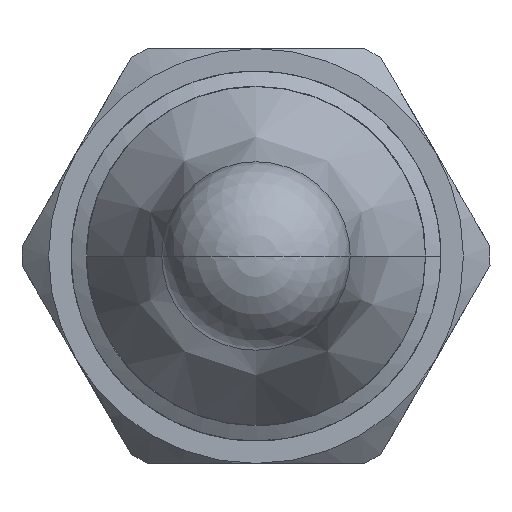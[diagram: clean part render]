
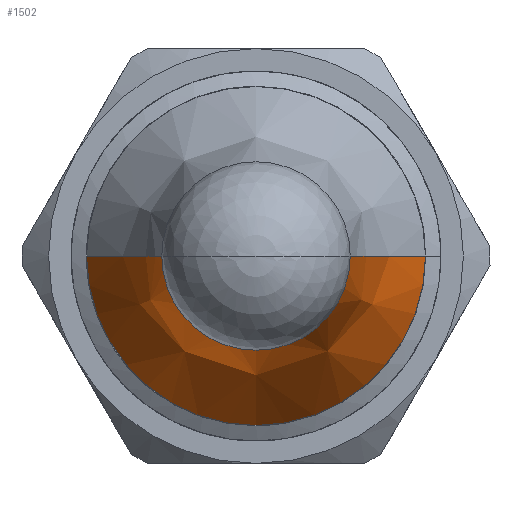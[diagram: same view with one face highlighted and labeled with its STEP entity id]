
A CAD part, front view. The second image highlights one B-rep face of the part: STEP entity #1502.
In plain terms, the highlighted free-form (B-spline) face has degree [2, 3] with [3, 4] control points.
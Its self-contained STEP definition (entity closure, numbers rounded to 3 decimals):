
#30 = VERTEX_POINT ( 'NONE', #5097 ) ;
#75 = DIRECTION ( 'NONE',  ( 0., 1., 0. ) ) ;
#100 = ORIENTED_EDGE ( 'NONE', *, *, #3394, .T. ) ;
#182 = CARTESIAN_POINT ( 'NONE',  ( -5.664, -143.124, 0. ) ) ;
#526 = CARTESIAN_POINT ( 'NONE',  ( 8.99, -138.8, 0. ) ) ;
#590 = ORIENTED_EDGE ( 'NONE', *, *, #857, .T. ) ;
#603 = CARTESIAN_POINT ( 'NONE',  ( -5., -148., 0. ) ) ;
#606 = AXIS2_PLACEMENT_3D ( 'NONE', #881, #75, #4155 ) ;
#857 = EDGE_CURVE ( 'NONE', #1431, #4128, #2897, .T. ) ;
#869 = AXIS2_PLACEMENT_3D ( 'NONE', #1557, #2839, #4502 ) ;
#881 = CARTESIAN_POINT ( 'NONE',  ( 0., -148., 0. ) ) ;
#1019 = CARTESIAN_POINT ( 'NONE',  ( 5.664, -143.124, 0. ) ) ;
#1160 = B_SPLINE_CURVE_WITH_KNOTS ( 'NONE', 2,
 ( #1556, #2412, #5270 ),
 .UNSPECIFIED., .F., .F.,
 ( 3, 3 ),
 ( 0., 0.667 ),
 .UNSPECIFIED. ) ;
#1431 = VERTEX_POINT ( 'NONE', #2627 ) ;
#1502 = ADVANCED_FACE ( 'NONE', ( #4204 ), #2243, .T. ) ;
#1556 = CARTESIAN_POINT ( 'NONE',  ( -8.99, -138.8, 0. ) ) ;
#1557 = CARTESIAN_POINT ( 'NONE',  ( 0., -138.8, 0. ) ) ;
#1661 = EDGE_CURVE ( 'NONE', #30, #3627, #2481, .T. ) ;
#2172 = CARTESIAN_POINT ( 'NONE',  ( -8.99, -138.8, -17.98 ) ) ;
#2198 = CARTESIAN_POINT ( 'NONE',  ( 5.664, -143.124, -11.328 ) ) ;
#2243 =( BOUNDED_SURFACE ( )  B_SPLINE_SURFACE ( 2, 3, ( 
 ( #526, #3433, #2172, #3405 ),
 ( #5037, #2198, #3832, #182 ),
 ( #5063, #3022, #4666, #603 ) ),
 .UNSPECIFIED., .F., .F., .T. ) 
 B_SPLINE_SURFACE_WITH_KNOTS ( ( 3, 3 ),
 ( 4, 4 ),
 ( 0., 0.667 ),
 ( 0., 1. ),
 .UNSPECIFIED. ) 
 GEOMETRIC_REPRESENTATION_ITEM ( )  RATIONAL_B_SPLINE_SURFACE ( (
 ( 1., 0.333, 0.333, 1.),
 ( 1., 0.333, 0.333, 1.),
 ( 1., 0.333, 0.333, 1.) ) ) 
 REPRESENTATION_ITEM ( '' )  SURFACE ( )  );
#2411 = CARTESIAN_POINT ( 'NONE',  ( -5., -148., 0. ) ) ;
#2412 = CARTESIAN_POINT ( 'NONE',  ( -5.664, -143.124, 0. ) ) ;
#2481 = CIRCLE ( 'NONE', #869, 8.99 ) ;
#2627 = CARTESIAN_POINT ( 'NONE',  ( 5., -148., 0. ) ) ;
#2716 = ORIENTED_EDGE ( 'NONE', *, *, #4407, .F. ) ;
#2839 = DIRECTION ( 'NONE',  ( 0., 1., 0. ) ) ;
#2897 = CIRCLE ( 'NONE', #606, 5. ) ;
#3022 = CARTESIAN_POINT ( 'NONE',  ( 5., -148., -10. ) ) ;
#3257 = CARTESIAN_POINT ( 'NONE',  ( -8.99, -138.8, 0. ) ) ;
#3366 = CARTESIAN_POINT ( 'NONE',  ( 8.99, -138.8, 0. ) ) ;
#3394 = EDGE_CURVE ( 'NONE', #30, #1431, #4886, .T. ) ;
#3405 = CARTESIAN_POINT ( 'NONE',  ( -8.99, -138.8, 0. ) ) ;
#3433 = CARTESIAN_POINT ( 'NONE',  ( 8.99, -138.8, -17.98 ) ) ;
#3627 = VERTEX_POINT ( 'NONE', #3257 ) ;
#3832 = CARTESIAN_POINT ( 'NONE',  ( -5.664, -143.124, -11.328 ) ) ;
#4128 = VERTEX_POINT ( 'NONE', #2411 ) ;
#4155 = DIRECTION ( 'NONE',  ( -1., 0., 0. ) ) ;
#4204 = FACE_OUTER_BOUND ( 'NONE', #4591, .T. ) ;
#4407 = EDGE_CURVE ( 'NONE', #3627, #4128, #1160, .T. ) ;
#4502 = DIRECTION ( 'NONE',  ( -1., 0., 0. ) ) ;
#4591 = EDGE_LOOP ( 'NONE', ( #5261, #100, #590, #2716 ) ) ;
#4666 = CARTESIAN_POINT ( 'NONE',  ( -5., -148., -10. ) ) ;
#4886 = B_SPLINE_CURVE_WITH_KNOTS ( 'NONE', 2,
 ( #3366, #1019, #5026 ),
 .UNSPECIFIED., .F., .F.,
 ( 3, 3 ),
 ( 0., 0.667 ),
 .UNSPECIFIED. ) ;
#5026 = CARTESIAN_POINT ( 'NONE',  ( 5., -148., 0. ) ) ;
#5037 = CARTESIAN_POINT ( 'NONE',  ( 5.664, -143.124, 0. ) ) ;
#5063 = CARTESIAN_POINT ( 'NONE',  ( 5., -148., 0. ) ) ;
#5097 = CARTESIAN_POINT ( 'NONE',  ( 8.99, -138.8, 0. ) ) ;
#5261 = ORIENTED_EDGE ( 'NONE', *, *, #1661, .F. ) ;
#5270 = CARTESIAN_POINT ( 'NONE',  ( -5., -148., 0. ) ) ;
